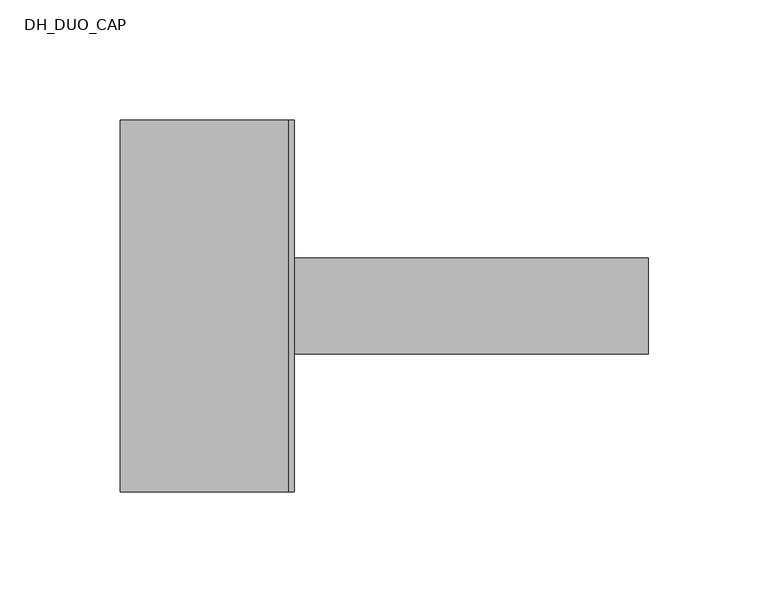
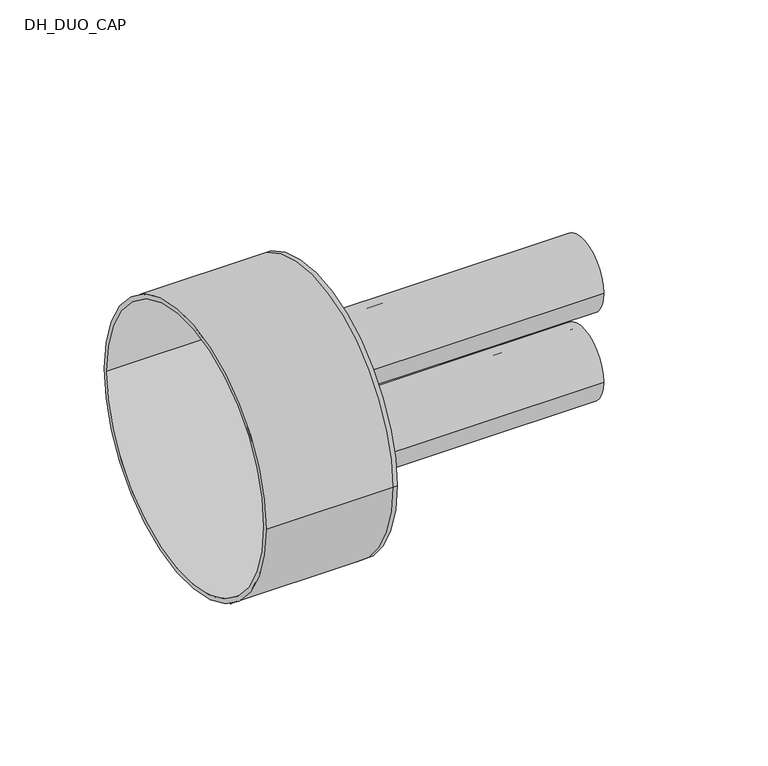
"""IFC4 building model written with IfcOpenShell, lengths in millimetres: pipe fitting geometry, DH_DUO_CAP : RAUVIPEX DUO 11 Heating - Solid Cap."""

from ifc_helpers import new_model, si_unit, point, frame, frame_2d, origin, place, context, project, spatial, polyline, circle_curve, trimmed, segment, composite_curve, outline, extrude, source, transform, mapped, element, save
from ifc_brep_helpers import plane_surface, cylinder_surface, revolved_surface, advanced_brep


def dh_duo_cap_caf1f0f4(model_context):
    return source(origin(), model_context, "Body", "SolidModel", [
        extrude(outline(composite_curve([segment(trimmed(circle_curve(frame_2d((0.0, -26.0)), 20.0), [point((-20.0, -26.0))], [point((20.0, -26.0))], False, "CARTESIAN"), True, "CONTINUOUS"), segment(trimmed(circle_curve(frame_2d((0.0, -26.0)), 20.0), [point((20.0, -26.0))], [point((-20.0, -26.0))], False, "CARTESIAN"), True, "CONTINUOUS")], self_intersect=False), holes=[composite_curve([segment(trimmed(circle_curve(frame_2d((0.0, -26.0)), 16.3), [point((-16.3, -26.0))], [point((16.3, -26.0))], True, "CARTESIAN"), True, "CONTINUOUS"), segment(trimmed(circle_curve(frame_2d((0.0, -26.0)), 16.3), [point((16.3, -26.0))], [point((-16.3, -26.0))], True, "CARTESIAN"), True, "CONTINUOUS")], self_intersect=False)]), frame((0.0, 0.0, 0.0), z_axis=(1.0, 0.0, 0.0), x_axis=(0.0, 1.0, 0.0)), (0.0, 0.0, 1.0), 150.0),
        extrude(outline(composite_curve([segment(trimmed(circle_curve(frame_2d((0.0, 26.0)), 20.0), [point((-20.0, 26.0))], [point((20.0, 26.0))], False, "CARTESIAN"), True, "CONTINUOUS"), segment(trimmed(circle_curve(frame_2d((0.0, 26.0)), 20.0), [point((20.0, 26.0))], [point((-20.0, 26.0))], False, "CARTESIAN"), True, "CONTINUOUS")], self_intersect=False), holes=[composite_curve([segment(trimmed(circle_curve(frame_2d((0.0, 26.0)), 16.3), [point((-16.3, 26.0))], [point((16.3, 26.0))], True, "CARTESIAN"), True, "CONTINUOUS"), segment(trimmed(circle_curve(frame_2d((0.0, 26.0)), 16.3), [point((16.3, 26.0))], [point((-16.3, 26.0))], True, "CARTESIAN"), True, "CONTINUOUS")], self_intersect=False)]), frame((0.0, 0.0, 0.0), z_axis=(1.0, 0.0, 0.0), x_axis=(0.0, 1.0, 0.0)), (0.0, 0.0, 1.0), 150.0),
        advanced_brep(
        [(-70.0, -77.5, 0.0), (-70.0, 77.5, 0.0), (-70.0, -75.0, 0.0), (-70.0, 75.0, 0.0), (0.0, -75.0, 0.0), (0.0, 75.0, 0.0), (0.0, -77.5, 0.0), (0.0, 77.5, 0.0), (0.0, 20.0, 26.0), (0.0, -20.0, 26.0), (0.0, 20.0, -26.0), (0.0, -20.0, -26.0), (2.5, -77.5, 0.0), (2.5, 77.5, 0.0), (2.5, -20.0, 26.0), (2.5, 20.0, 26.0), (2.5, -20.0, -26.0), (2.5, 20.0, -26.0)],
        [
            (0, 1, circle_curve(frame((-70.0, 0.0, 0.0), z_axis=(-1.0, 0.0, 0.0), x_axis=(0.0, 1.0, 0.0)), 77.5)),
            (1, 0, circle_curve(frame((-70.0, 0.0, 0.0), z_axis=(-1.0, 0.0, 0.0), x_axis=(0.0, 1.0, 0.0)), 77.5)),
            (2, 3, circle_curve(frame((-70.0, 0.0, 0.0), z_axis=(1.0, 0.0, 0.0), x_axis=(0.0, 1.0, 0.0)), 75.0)),
            (3, 2, circle_curve(frame((-70.0, 0.0, 0.0), z_axis=(1.0, 0.0, 0.0), x_axis=(0.0, 1.0, 0.0)), 75.0)),
            (2, 4),
            (4, 5, circle_curve(frame((0.0, 0.0, 0.0), z_axis=(1.0, 0.0, 0.0), x_axis=(0.0, 1.0, 0.0)), 75.0)),
            (5, 3),
            (5, 4, circle_curve(frame((0.0, 0.0, 0.0), z_axis=(1.0, 0.0, 0.0), x_axis=(0.0, 1.0, 0.0)), 75.0)),
            (0, 6),
            (6, 7, circle_curve(frame((0.0, 0.0, 0.0), z_axis=(-1.0, 0.0, 0.0), x_axis=(0.0, 1.0, 0.0)), 77.5)),
            (7, 1),
            (7, 6, circle_curve(frame((0.0, 0.0, 0.0), z_axis=(-1.0, 0.0, 0.0), x_axis=(0.0, 1.0, 0.0)), 77.5)),
            (8, 9, circle_curve(frame((0.0, 0.0, 26.0), z_axis=(1.0, 0.0, 0.0), x_axis=(0.0, 1.0, 0.0)), 20.0)),
            (9, 8, circle_curve(frame((0.0, 0.0, 26.0), z_axis=(1.0, 0.0, 0.0), x_axis=(0.0, 1.0, 0.0)), 20.0)),
            (10, 11, circle_curve(frame((0.0, 0.0, -26.0), z_axis=(1.0, 0.0, 0.0), x_axis=(0.0, 1.0, 0.0)), 20.0)),
            (11, 10, circle_curve(frame((0.0, 0.0, -26.0), z_axis=(1.0, 0.0, 0.0), x_axis=(0.0, 1.0, 0.0)), 20.0)),
            (12, 13, circle_curve(frame((2.5, 0.0, 0.0), z_axis=(1.0, 0.0, 0.0), x_axis=(0.0, 1.0, 0.0)), 77.5)),
            (13, 12, circle_curve(frame((2.5, 0.0, 0.0), z_axis=(1.0, 0.0, 0.0), x_axis=(0.0, 1.0, 0.0)), 77.5)),
            (14, 15, circle_curve(frame((2.5, 0.0, 26.0), z_axis=(-1.0, 0.0, 0.0), x_axis=(0.0, 1.0, 0.0)), 20.0)),
            (15, 14, circle_curve(frame((2.5, 0.0, 26.0), z_axis=(-1.0, 0.0, 0.0), x_axis=(0.0, 1.0, 0.0)), 20.0)),
            (16, 17, circle_curve(frame((2.5, 0.0, -26.0), z_axis=(-1.0, 0.0, 0.0), x_axis=(0.0, 1.0, 0.0)), 20.0)),
            (17, 16, circle_curve(frame((2.5, 0.0, -26.0), z_axis=(-1.0, 0.0, 0.0), x_axis=(0.0, 1.0, 0.0)), 20.0)),
            (13, 7),
            (6, 12),
            (8, 15),
            (14, 9),
            (10, 17),
            (16, 11),
        ],
        [
            plane_surface(frame((-70.0, 0.0, 0.0), z_axis=(-1.0, 0.0, 0.0), x_axis=(0.0, 0.0, 1.0))),
            revolved_surface(polyline([(0.0, 75.0, 0.0), (-70.0, 75.0, 0.0)]), (-70.0, 0.0, 0.0), (1.0, 0.0, 0.0)),
            cylinder_surface(frame((-70.0, 0.0, 0.0), z_axis=(-1.0, 0.0, 0.0), x_axis=(0.0, 1.0, 0.0)), 77.5),
            plane_surface(frame((0.0, 0.0, 0.0), z_axis=(-1.0, 0.0, 0.0), x_axis=(0.0, 0.0, 1.0))),
            plane_surface(frame((2.5, 0.0, 0.0), z_axis=(1.0, 0.0, 0.0), x_axis=(0.0, 0.0, 1.0))),
            cylinder_surface(frame((0.0, 0.0, 0.0), z_axis=(-1.0, 0.0, 0.0), x_axis=(0.0, 1.0, 0.0)), 77.5),
            revolved_surface(polyline([(0.0, 20.0, 26.0), (2.5, 20.0, 26.0)]), (0.0, 0.0, 26.0), (-1.0, 0.0, 0.0)),
            revolved_surface(polyline([(0.0, 20.0, -26.0), (2.5, 20.0, -26.0)]), (0.0, 0.0, -26.0), (-1.0, 0.0, 0.0)),
        ],
        [
            (0, [[1, 2], [3, 4]]),
            (1, [[-3, 5, 6, 7]]),
            (1, [[-4, -7, 8, -5]]),
            (2, [[-1, 9, 10, 11]]),
            (2, [[-2, -11, 12, -9]]),
            (3, [[-6, -8], [13, 14], [15, 16]]),
            (4, [[17, 18], [19, 20], [21, 22]]),
            (5, [[-18, 23, -10, 24]]),
            (5, [[-17, -24, -12, -23]]),
            (6, [[25, -19, 26, -13]]),
            (6, [[-25, -14, -26, -20]]),
            (7, [[27, -21, 28, -15]]),
            (7, [[-27, -16, -28, -22]]),
        ],
    ),
    ])


if __name__ == "__main__":
    model = new_model("IFC4")
    model_context = context("Model", 3, world=origin())
    ifc_project = project(units=[si_unit("LENGTHUNIT", "METRE", prefix="MILLI")], contexts=[model_context])
    site = spatial("IfcSite", under=ifc_project)
    building = spatial("IfcBuilding", under=site)
    placement = place(None, origin())
    dh_duo_cap_shape = dh_duo_cap_caf1f0f4(model_context)
    element("IfcPipeFitting", 1, ObjectType="DH_DUO_CAP : RAUVIPEX DUO 11 Heating - Solid Cap", at=placement, inside=building, context=model_context, shape_type="MappedRepresentation", body=[
        mapped(dh_duo_cap_shape, transform((0.0, 0.0, 0.0), x_axis=(1.0, 0.0, 0.0), y_axis=(0.0, 1.0, 0.0), z_axis=(0.0, 0.0, 1.0))),
    ])
    save(model, "model.ifc")
